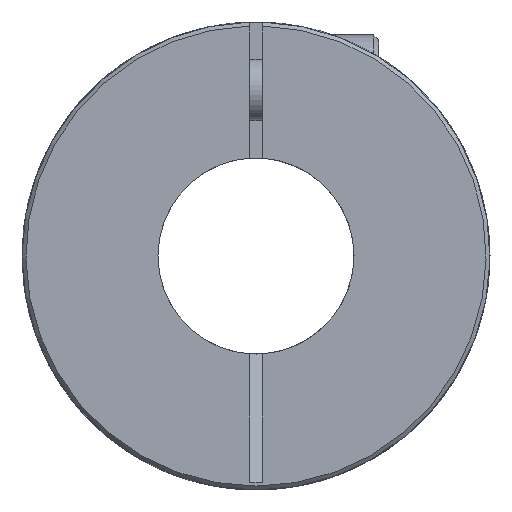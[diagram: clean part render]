
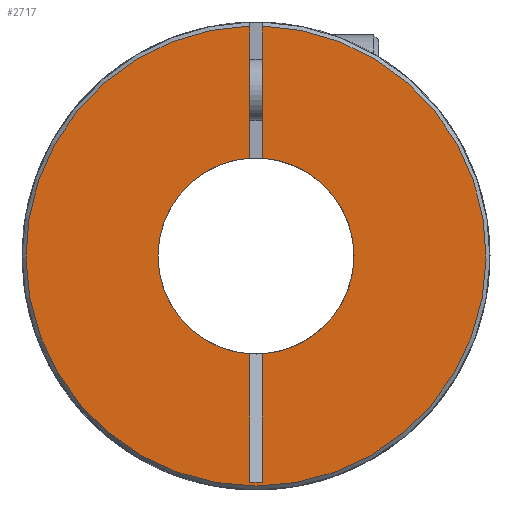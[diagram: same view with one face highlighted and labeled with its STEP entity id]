
A CAD part, front view. The second image highlights one B-rep face of the part: STEP entity #2717.
In plain terms, the highlighted planar face has unit normal (0, -1, 0).
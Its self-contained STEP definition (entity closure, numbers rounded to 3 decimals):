
#1=DIRECTION('',(0.,0.,-1.));
#2=VECTOR('',#1,5.394);
#3=CARTESIAN_POINT('',(-0.25,-11.45,9.387));
#4=LINE('',#3,#2);
#5=CARTESIAN_POINT('',(0.,-11.45,0.));
#6=DIRECTION('',(0.,1.,0.));
#7=DIRECTION('',(-1.,0.,0.));
#8=AXIS2_PLACEMENT_3D('',#5,#6,#7);
#10=CARTESIAN_POINT('',(0.,-11.45,0.));
#11=DIRECTION('',(0.,1.,0.));
#12=DIRECTION('',(-0.063,0.,-0.998));
#13=AXIS2_PLACEMENT_3D('',#10,#11,#12);
#15=DIRECTION('',(0.,0.,-1.));
#16=VECTOR('',#15,5.24);
#17=CARTESIAN_POINT('',(-0.25,-11.45,-3.992));
#18=LINE('',#17,#16);
#19=DIRECTION('',(1.,0.,0.));
#20=VECTOR('',#19,0.5);
#21=CARTESIAN_POINT('',(-0.25,-11.45,-9.232));
#22=LINE('',#21,#20);
#23=DIRECTION('',(0.,0.,-1.));
#24=VECTOR('',#23,5.24);
#25=CARTESIAN_POINT('',(0.25,-11.45,-3.992));
#26=LINE('',#25,#24);
#27=DIRECTION('',(0.,0.,-1.));
#28=VECTOR('',#27,5.394);
#29=CARTESIAN_POINT('',(0.25,-11.45,9.387));
#30=LINE('',#29,#28);
#54=CARTESIAN_POINT('',(0.,-11.45,0.));
#55=DIRECTION('',(0.,1.,0.));
#56=DIRECTION('',(0.063,0.,0.998));
#57=AXIS2_PLACEMENT_3D('',#54,#55,#56);
#2027=CARTESIAN_POINT('',(0.,-11.45,0.));
#2028=DIRECTION('',(0.,-1.,0.));
#2029=DIRECTION('',(-0.027,0.,1.));
#2030=AXIS2_PLACEMENT_3D('',#2027,#2028,#2029);
#2432=CARTESIAN_POINT('',(-4.,-11.45,0.));
#2433=VERTEX_POINT('',#2432);
#2507=CARTESIAN_POINT('',(-0.25,-11.45,-9.232));
#2509=VERTEX_POINT('',#2507);
#2511=CARTESIAN_POINT('',(0.25,-11.45,-9.232));
#2513=VERTEX_POINT('',#2511);
#2554=CARTESIAN_POINT('',(-0.25,-11.45,9.387));
#2555=CARTESIAN_POINT('',(-0.25,-11.45,3.992));
#2556=VERTEX_POINT('',#2554);
#2557=VERTEX_POINT('',#2555);
#2558=CARTESIAN_POINT('',(-0.25,-11.45,-3.992));
#2559=VERTEX_POINT('',#2558);
#2560=CARTESIAN_POINT('',(0.25,-11.45,9.387));
#2561=CARTESIAN_POINT('',(0.25,-11.45,3.992));
#2562=VERTEX_POINT('',#2560);
#2563=VERTEX_POINT('',#2561);
#2564=CARTESIAN_POINT('',(0.25,-11.45,-3.992));
#2565=VERTEX_POINT('',#2564);
#2692=CARTESIAN_POINT('',(0.,-11.45,0.));
#2693=DIRECTION('',(0.,1.,0.));
#2694=DIRECTION('',(1.,0.,0.));
#2695=AXIS2_PLACEMENT_3D('',#2692,#2693,#2694);
#2696=PLANE('',#2695);
#2698=ORIENTED_EDGE('',*,*,#2697,.T.);
#2700=ORIENTED_EDGE('',*,*,#2699,.F.);
#2702=ORIENTED_EDGE('',*,*,#2701,.F.);
#2704=ORIENTED_EDGE('',*,*,#2703,.T.);
#2706=ORIENTED_EDGE('',*,*,#2705,.T.);
#2708=ORIENTED_EDGE('',*,*,#2707,.F.);
#2710=ORIENTED_EDGE('',*,*,#2709,.F.);
#2712=ORIENTED_EDGE('',*,*,#2711,.F.);
#2714=ORIENTED_EDGE('',*,*,#2713,.F.);
#2715=EDGE_LOOP('',(#2698,#2700,#2702,#2704,#2706,#2708,#2710,#2712,#2714));
#2716=FACE_OUTER_BOUND('',#2715,.F.);
#2717=ADVANCED_FACE('',(#2716),#2696,.F.);
#9=CIRCLE('',#8,4.);
#14=CIRCLE('',#13,4.);
#58=CIRCLE('',#57,4.);
#2031=CIRCLE('',#2030,9.39);
#2697=EDGE_CURVE('',#2556,#2557,#4,.T.);
#2699=EDGE_CURVE('',#2433,#2557,#9,.T.);
#2701=EDGE_CURVE('',#2559,#2433,#14,.T.);
#2703=EDGE_CURVE('',#2559,#2509,#18,.T.);
#2705=EDGE_CURVE('',#2509,#2513,#22,.T.);
#2707=EDGE_CURVE('',#2565,#2513,#26,.T.);
#2709=EDGE_CURVE('',#2563,#2565,#58,.T.);
#2711=EDGE_CURVE('',#2562,#2563,#30,.T.);
#2713=EDGE_CURVE('',#2556,#2562,#2031,.T.);
